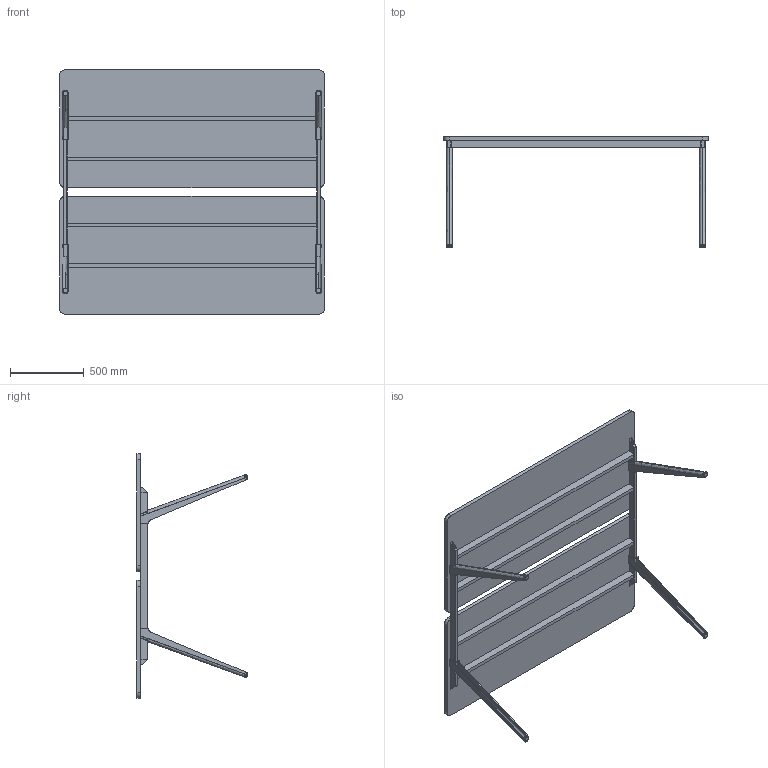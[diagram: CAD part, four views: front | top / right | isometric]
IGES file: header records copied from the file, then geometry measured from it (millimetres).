
Start section: SolidWorks IGES file using analytic representation for surfaces
Global section: file name: C:\Users\simone.cerana\OneDrive - Gruppo Tecno\Desktop\CHINA\DISEGNI DI SERIE\ASSIEMI LISTINO\HORIZON LISTINO\HO1816ST.IGS; native system: SolidWorks 2024; preprocessor: SolidWorks 2024; author: simone.cerana; date: 260508.123825; units: millimetre
Bounding box: 1800 x 749.83 x 1660 mm (x, y, z)
Surface area: 7721746.4 mm2 (no closed solid volume)
Topology: 0 solids, 0 shells, 284 faces, 3792 edges, 3792 vertices
Faces by surface type: bspline 192, revolution 92
